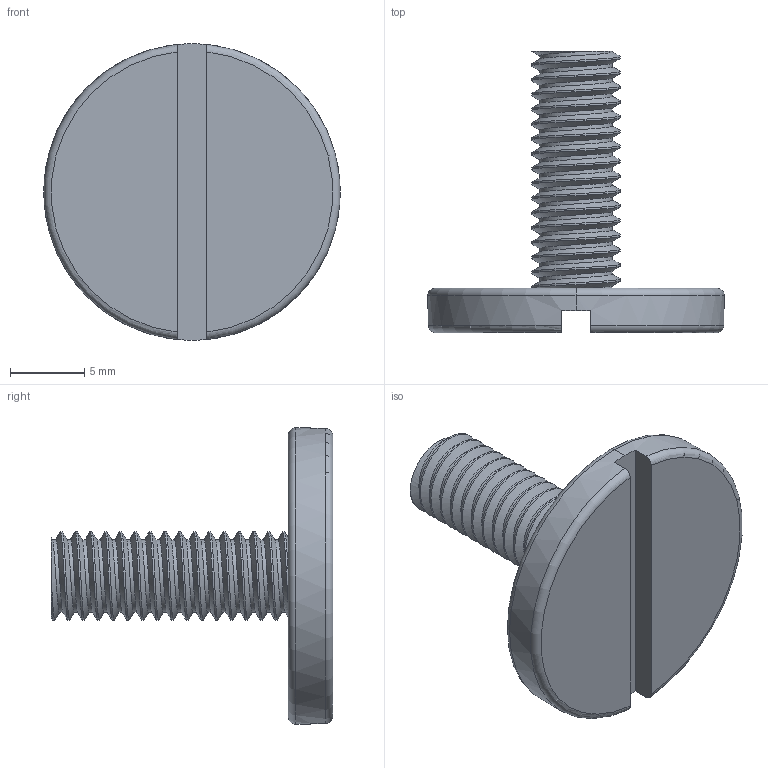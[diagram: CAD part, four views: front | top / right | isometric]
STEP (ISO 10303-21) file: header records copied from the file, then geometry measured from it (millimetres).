
FILE_DESCRIPTION (( 'STEP AP214' ), '1' );
FILE_NAME ('1.2031 Lattapääruuvi M6x16.STEP', '2023-12-18T14:43:47', ( '' ), ( '' ), 'SwSTEP 2.0', 'SolidWorks 2019', '' );
FILE_SCHEMA (( 'AUTOMOTIVE_DESIGN' ));
Length unit declared in the file: millimetre
Products named in the file (1): 1.2031 Lattapääruuvi M6x16
Bounding box: 20 x 19 x 20 mm (x, y, z)
Volume: 1243.4 mm3; surface area: 1286.9 mm2
Topology: 1 solids, 1 shells, 49 faces, 136 edges, 90 vertices
Faces by surface type: cylinder 35, plane 7, torus 4, bspline 3
Entity records: 4129 total; most frequent: CARTESIAN_POINT 3057, ORIENTED_EDGE 272, DIRECTION 168, EDGE_CURVE 136, VERTEX_POINT 90, AXIS2_PLACEMENT_3D 63, EDGE_LOOP 50, FACE_OUTER_BOUND 49
